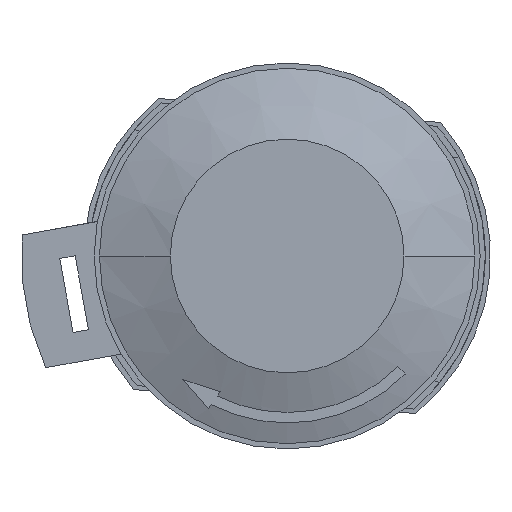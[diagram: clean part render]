
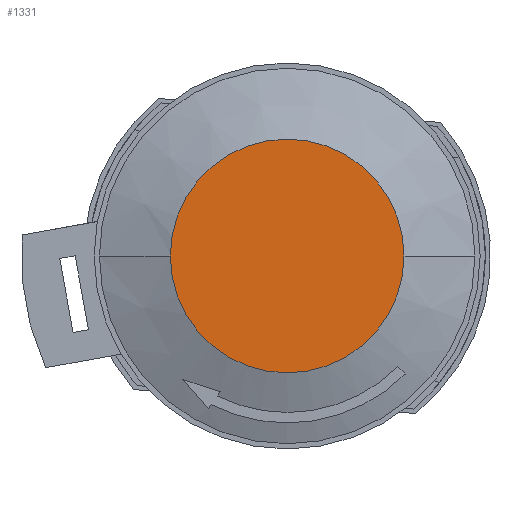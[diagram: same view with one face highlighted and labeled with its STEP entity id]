
A CAD part, left-side view. The second image highlights one B-rep face of the part: STEP entity #1331.
In plain terms, the highlighted planar face has unit normal (-1, 0, 0).
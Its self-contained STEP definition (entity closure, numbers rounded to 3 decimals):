
#845 = EDGE_CURVE ( 'NONE', #9553, #9541, #7004, .T. ) ;
#1331 = ADVANCED_FACE ( 'NONE', ( #7760 ), #10369, .T. ) ;
#2276 = EDGE_CURVE ( 'NONE', #9541, #9553, #11649, .T. ) ;
#2632 = AXIS2_PLACEMENT_3D ( 'NONE', #8327, #8330, #8331 ) ;
#2948 = AXIS2_PLACEMENT_3D ( 'NONE', #10372, #10378, #10379 ) ;
#3589 = ORIENTED_EDGE ( 'NONE', *, *, #2276, .F. ) ;
#3590 = ORIENTED_EDGE ( 'NONE', *, *, #845, .F. ) ;
#4520 = EDGE_LOOP ( 'NONE', ( #3589, #3590 ) ) ;
#7004 = CIRCLE ( 'NONE', #2632, 11.2 ) ;
#7760 = FACE_OUTER_BOUND ( 'NONE', #4520, .T. ) ;
#8327 = CARTESIAN_POINT ( 'NONE',  ( -16., 0., 0. ) ) ;
#8330 = DIRECTION ( 'NONE',  ( 1., 0., 0. ) ) ;
#8331 = DIRECTION ( 'NONE',  ( 0., 1., 0. ) ) ;
#9541 = VERTEX_POINT ( 'NONE', #12423 ) ;
#9553 = VERTEX_POINT ( 'NONE', #12435 ) ;
#10369 = PLANE ( 'NONE',  #2948 ) ;
#10372 = CARTESIAN_POINT ( 'NONE',  ( -16., 5.6, 0. ) ) ;
#10378 = DIRECTION ( 'NONE',  ( -1., 0., 0. ) ) ;
#10379 = DIRECTION ( 'NONE',  ( 0., 0., 1. ) ) ;
#11649 = CIRCLE ( 'NONE', #12934, 11.2 ) ;
#12151 = CARTESIAN_POINT ( 'NONE',  ( -16., 0., 0. ) ) ;
#12153 = DIRECTION ( 'NONE',  ( 1., 0., 0. ) ) ;
#12154 = DIRECTION ( 'NONE',  ( 0., 1., 0. ) ) ;
#12423 = CARTESIAN_POINT ( 'NONE',  ( -16., 11.2, 0. ) ) ;
#12435 = CARTESIAN_POINT ( 'NONE',  ( -16., -11.2, 0. ) ) ;
#12934 = AXIS2_PLACEMENT_3D ( 'NONE', #12151, #12153, #12154 ) ;
